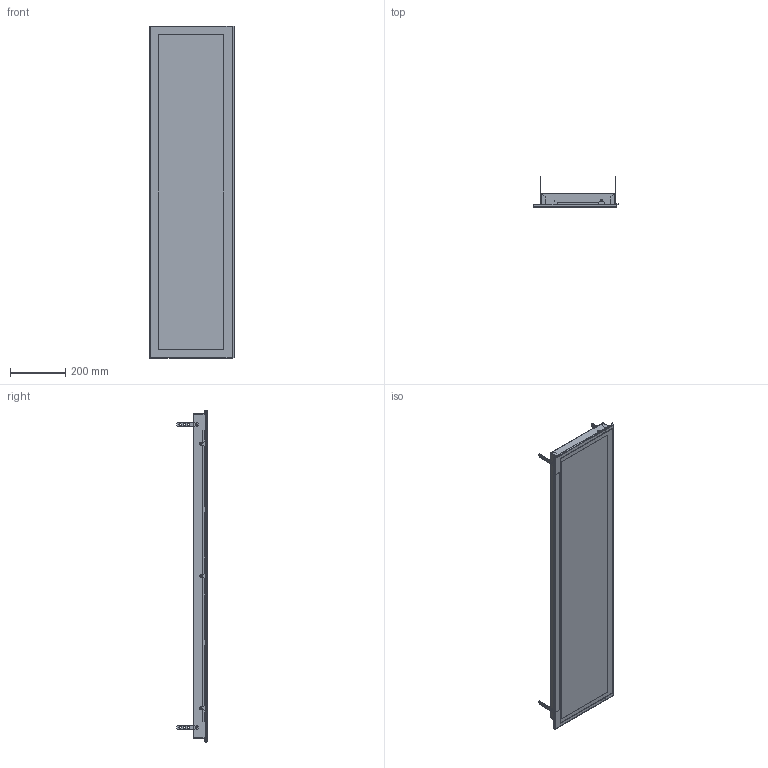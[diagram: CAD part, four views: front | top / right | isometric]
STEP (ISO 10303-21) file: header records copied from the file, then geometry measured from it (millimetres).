
FILE_DESCRIPTION(('STEP AP203'), '1');
FILE_NAME('ÄÊÏ008 03 004.00 ÑÁ - Ñâåòèëüíèê 1200õ300', '', ('UNSPECIFIED'), ('UNSPECIFIED'), 'ASCON STEP Converter 1.6', 'ASCON Math Kernel', '');
FILE_SCHEMA(('CONFIG_CONTROL_DESIGN'));
Length unit declared in the file: millimetre
Products named in the file (14): ДКП008 03 004.00; ДКП008 03 003.01; ДКП008 01 003.03; ДКП008 03 003.02; ДКП008 02 003.08; ДКП008 03 004.02; ДКП008 03 004.04; ДКП008 02 004.05; ДКП008 01 004.07
Assembly tree (25 placements, depth 3):
  ДКП008 03 004.00
    ДКП008 03 003.01
      ДКП008 03 003.01
      ДКП008 01 003.03  x4
      ДКП008 03 003.02  x2
      ДКП008 02 003.08  x2
    ДКП008 03 004.02
      ДКП008 03 004.04
      ДКП008 02 004.05
      ДКП008 01 004.07  x2
    (unnamed)
    (unnamed)  x4
    (unnamed)
    (unnamed)  x4
Bounding box: 305.4 x 110 x 1199 mm (x, y, z)
Volume: 1329435.4 mm3; surface area: 1964866.4 mm2
Topology: 23 solids, 23 shells, 621 faces, 1463 edges, 915 vertices
Faces by surface type: plane 386, cylinder 163, bspline 44, torus 18, cone 10
Full cylindrical faces by diameter (mm): 1.85 x4, 2.2 x5, 2.5 x10, 3.2 x4, 3.5 x49, 4.4 x5, 4.5 x2, 8 x12, 20 x1
Entity records: 14475 total; most frequent: CARTESIAN_POINT 3693, DIRECTION 1984, ORIENTED_EDGE 1844, EDGE_CURVE 922, AXIS2_PLACEMENT_3D 683, EDGE_LOOP 622, LINE 618, VECTOR 618
